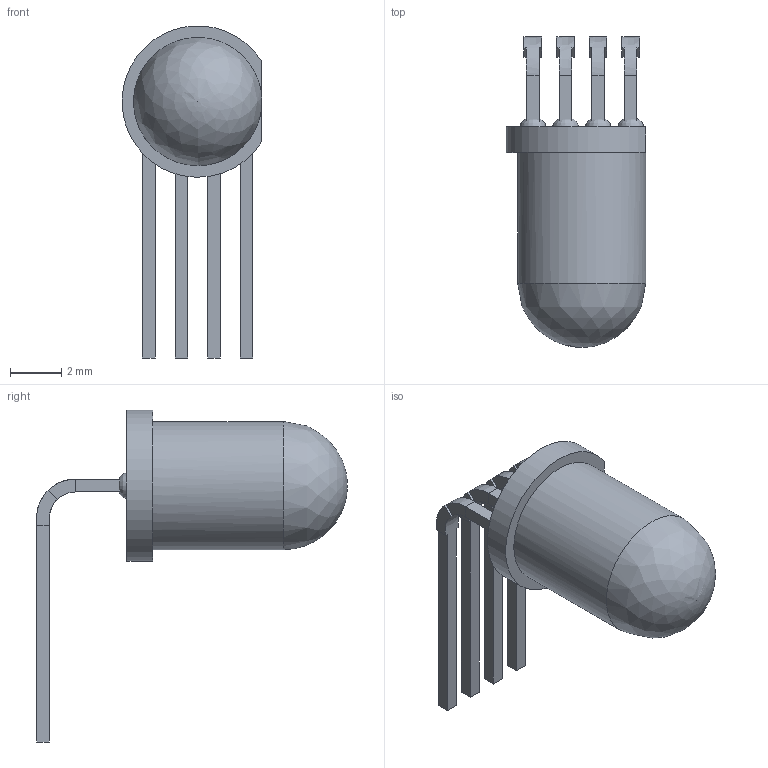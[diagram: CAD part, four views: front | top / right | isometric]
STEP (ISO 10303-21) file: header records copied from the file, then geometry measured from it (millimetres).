
FILE_DESCRIPTION(/* description */ (''),/* implementation_level */ '2;1');
FILE_NAME(/* name */ 'LE5C6B~1',/* time_stamp */ '2022-11-08T16:31:04+01:00',/* author */ (''),/* organization */ (''),/* preprocessor_version */ 'ST-DEVELOPER v16.5',/* originating_system */ '',/* authorisation */ '');
FILE_SCHEMA (('AUTOMOTIVE_DESIGN'));
Length unit declared in the file: millimetre
Products named in the file (1): Document
Bounding box: 5.45 x 12.12 x 12.95 mm (x, y, z)
Volume: 160.1 mm3; surface area: 291.5 mm2
Topology: 1 solids, 6 shells, 80 faces, 205 edges, 131 vertices
Faces by surface type: plane 48, bspline 29, cylinder 3
Full cylindrical faces by diameter (mm): 5 x1
Entity records: 4883 total; most frequent: CARTESIAN_POINT 3474, ORIENTED_EDGE 383, EDGE_CURVE 200, B_SPLINE_CURVE_WITH_KNOTS 179, VERTEX_POINT 131, EDGE_LOOP 84, ADVANCED_FACE 80, FACE_OUTER_BOUND 80
